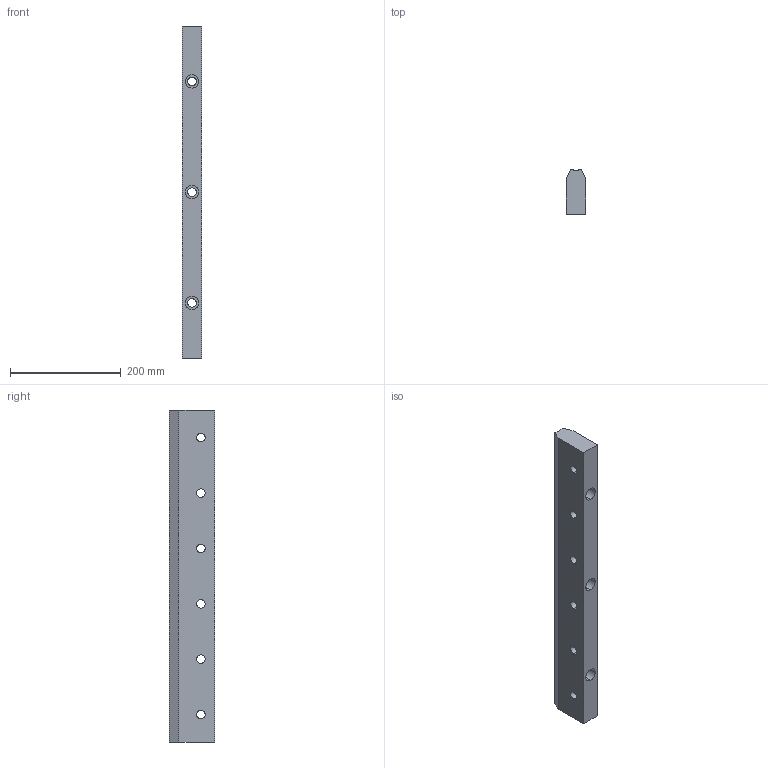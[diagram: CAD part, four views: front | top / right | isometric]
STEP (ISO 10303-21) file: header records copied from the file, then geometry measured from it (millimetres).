
FILE_DESCRIPTION (( 'STEP AP203' ), '1' );
FILE_NAME ('FKWU54-250.SLDPRT.step', '2020-08-02T20:09:56', ( '' ), ( '' ), 'SwSTEP 2.0', 'SolidWorks 2019', '' );
FILE_SCHEMA (( 'CONFIG_CONTROL_DESIGN' ));
Length unit declared in the file: millimetre
Products named in the file (2): FKWU54-250.SLDPRT
Bounding box: 35 x 81.78 x 599.5 mm (x, y, z)
Volume: 1485564.2 mm3; surface area: 161727.6 mm2
Topology: 1 solids, 1 shells, 54 faces, 132 edges, 86 vertices
Faces by surface type: cylinder 36, plane 18
Entity records: 1805 total; most frequent: DIRECTION 304, CARTESIAN_POINT 292, ORIENTED_EDGE 264, EDGE_CURVE 132, AXIS2_PLACEMENT_3D 122, VERTEX_POINT 86, EDGE_LOOP 78, CIRCLE 66
